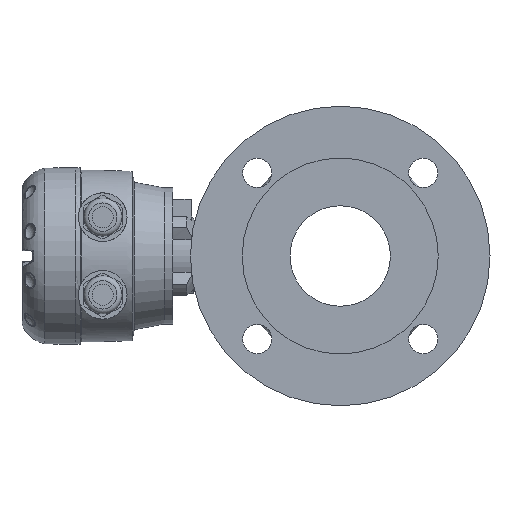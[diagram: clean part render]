
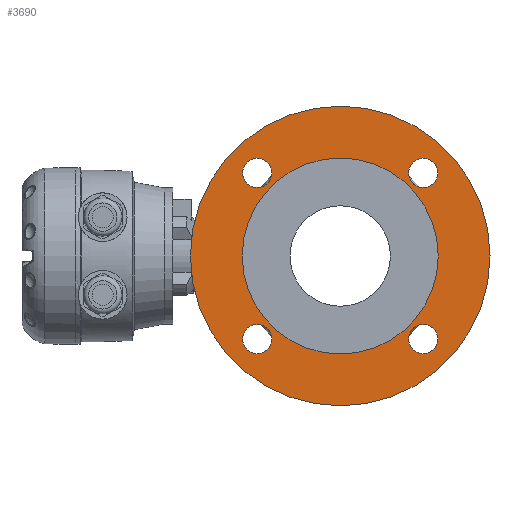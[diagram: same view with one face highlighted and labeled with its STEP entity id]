
A CAD part, left-side view. The second image highlights one B-rep face of the part: STEP entity #3690.
In plain terms, the highlighted planar face has unit normal (-1, 0, 0).
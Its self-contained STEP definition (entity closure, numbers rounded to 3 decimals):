
#5 = EDGE_CURVE ( 'NONE', #982, #982, #9147, .T. ) ;
#334 = CIRCLE ( 'NONE', #11342, 60.5 ) ;
#356 = CIRCLE ( 'NONE', #11351, 9. ) ;
#902 = CARTESIAN_POINT ( 'NONE',  ( -89.805, -97.017, -10.543 ) ) ;
#905 = DIRECTION ( 'NONE',  ( 1., 0., 0. ) ) ;
#906 = DIRECTION ( 'NONE',  ( 0., 0., -1. ) ) ;
#929 = CARTESIAN_POINT ( 'NONE',  ( -89.805, -148.282, -61.808 ) ) ;
#940 = DIRECTION ( 'NONE',  ( -1., 0., 0. ) ) ;
#942 = DIRECTION ( 'NONE',  ( 0., 0., 1. ) ) ;
#982 = VERTEX_POINT ( 'NONE', #983 ) ;
#983 = CARTESIAN_POINT ( 'NONE',  ( -89.805, -45.752, -52.808 ) ) ;
#985 = VERTEX_POINT ( 'NONE', #986 ) ;
#986 = CARTESIAN_POINT ( 'NONE',  ( -89.805, -97.017, -103.043 ) ) ;
#989 = VERTEX_POINT ( 'NONE', #990 ) ;
#990 = CARTESIAN_POINT ( 'NONE',  ( -89.805, -45.752, 49.722 ) ) ;
#1095 = VERTEX_POINT ( 'NONE', #1096 ) ;
#1096 = CARTESIAN_POINT ( 'NONE',  ( -89.805, -148.282, 49.722 ) ) ;
#1189 = VERTEX_POINT ( 'NONE', #1190 ) ;
#1190 = CARTESIAN_POINT ( 'NONE',  ( -89.805, -97.017, -71.043 ) ) ;
#1191 = VERTEX_POINT ( 'NONE', #1192 ) ;
#1192 = CARTESIAN_POINT ( 'NONE',  ( -89.805, -148.282, -52.808 ) ) ;
#1290 = EDGE_CURVE ( 'NONE', #985, #985, #13955, .T. ) ;
#1360 = EDGE_CURVE ( 'NONE', #989, #989, #14058, .T. ) ;
#3690 = ADVANCED_FACE ( 'NONE', ( #10308, #10319, #10323, #10326, #10316, #10305 ), #6960, .T. ) ;
#4047 = EDGE_CURVE ( 'NONE', #1095, #1095, #10826, .T. ) ;
#6104 = DIRECTION ( 'NONE',  ( 0., 0., 1. ) ) ;
#6106 = DIRECTION ( 'NONE',  ( -1., 0., 0. ) ) ;
#6143 = CARTESIAN_POINT ( 'NONE',  ( -89.805, -45.752, -61.808 ) ) ;
#6947 = CARTESIAN_POINT ( 'NONE',  ( -89.805, -97.017, -10.543 ) ) ;
#6960 = PLANE ( 'NONE',  #10911 ) ;
#6962 = DIRECTION ( 'NONE',  ( -1., 0., 0. ) ) ;
#6963 = DIRECTION ( 'NONE',  ( 0., 0., -1. ) ) ;
#7748 = DIRECTION ( 'NONE',  ( 0., 0., 1. ) ) ;
#7857 = CARTESIAN_POINT ( 'NONE',  ( -89.805, -97.017, -10.543 ) ) ;
#7858 = DIRECTION ( 'NONE',  ( 1., 0., 0. ) ) ;
#7872 = DIRECTION ( 'NONE',  ( 0., 0., -1. ) ) ;
#7978 = CARTESIAN_POINT ( 'NONE',  ( -89.805, -45.752, 40.722 ) ) ;
#8056 = DIRECTION ( 'NONE',  ( -1., 0., 0. ) ) ;
#8073 = EDGE_LOOP ( 'NONE', ( #9002 ) ) ;
#8076 = EDGE_LOOP ( 'NONE', ( #9003 ) ) ;
#8083 = EDGE_LOOP ( 'NONE', ( #9001 ) ) ;
#8085 = EDGE_LOOP ( 'NONE', ( #9005 ) ) ;
#8088 = EDGE_LOOP ( 'NONE', ( #9004 ) ) ;
#8090 = EDGE_LOOP ( 'NONE', ( #9000 ) ) ;
#9000 = ORIENTED_EDGE ( 'NONE', *, *, #1360, .F. ) ;
#9001 = ORIENTED_EDGE ( 'NONE', *, *, #4047, .F. ) ;
#9002 = ORIENTED_EDGE ( 'NONE', *, *, #13172, .F. ) ;
#9003 = ORIENTED_EDGE ( 'NONE', *, *, #5, .F. ) ;
#9004 = ORIENTED_EDGE ( 'NONE', *, *, #1290, .F. ) ;
#9005 = ORIENTED_EDGE ( 'NONE', *, *, #12768, .T. ) ;
#9147 = CIRCLE ( 'NONE', #10133, 9. ) ;
#10133 = AXIS2_PLACEMENT_3D ( 'NONE', #6143, #6106, #6104 ) ;
#10135 = AXIS2_PLACEMENT_3D ( 'NONE', #7857, #7858, #7872 ) ;
#10179 = AXIS2_PLACEMENT_3D ( 'NONE', #7978, #8056, #7748 ) ;
#10305 = FACE_BOUND ( 'NONE', #8085, .T. ) ;
#10308 = FACE_BOUND ( 'NONE', #8090, .T. ) ;
#10316 = FACE_OUTER_BOUND ( 'NONE', #8088, .T. ) ;
#10319 = FACE_BOUND ( 'NONE', #8083, .T. ) ;
#10323 = FACE_BOUND ( 'NONE', #8073, .T. ) ;
#10326 = FACE_BOUND ( 'NONE', #8076, .T. ) ;
#10826 = CIRCLE ( 'NONE', #11066, 9. ) ;
#10911 = AXIS2_PLACEMENT_3D ( 'NONE', #6947, #6962, #6963 ) ;
#11066 = AXIS2_PLACEMENT_3D ( 'NONE', #12603, #12604, #12605 ) ;
#11342 = AXIS2_PLACEMENT_3D ( 'NONE', #902, #905, #906 ) ;
#11351 = AXIS2_PLACEMENT_3D ( 'NONE', #929, #940, #942 ) ;
#12603 = CARTESIAN_POINT ( 'NONE',  ( -89.805, -148.282, 40.722 ) ) ;
#12604 = DIRECTION ( 'NONE',  ( -1., 0., 0. ) ) ;
#12605 = DIRECTION ( 'NONE',  ( 0., 0., 1. ) ) ;
#12768 = EDGE_CURVE ( 'NONE', #1189, #1189, #334, .T. ) ;
#13172 = EDGE_CURVE ( 'NONE', #1191, #1191, #356, .T. ) ;
#13955 = CIRCLE ( 'NONE', #10135, 92.5 ) ;
#14058 = CIRCLE ( 'NONE', #10179, 9. ) ;
